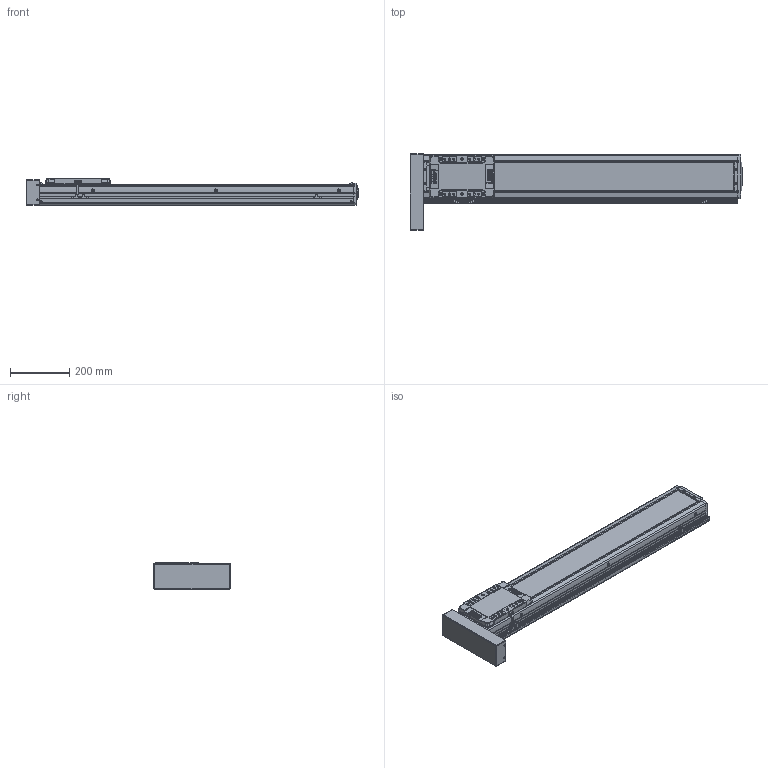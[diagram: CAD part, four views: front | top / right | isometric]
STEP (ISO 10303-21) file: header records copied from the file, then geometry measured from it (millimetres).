
FILE_DESCRIPTION(('STEP AP214'),'1');
FILE_NAME('Z:/Web/3D/SAN150/2013.04 (STP.)/SAN150ㅁㅁ-800PR+3SR.stp','2013-05-07T11:06:12',(' '),(' '),'Spatial InterOp 3D',' ',' ');
FILE_SCHEMA(('automotive_design'));
Length unit declared in the file: millimetre
Products named in the file (60): SLBL-SAN150; SLCV-SAN150; FHCS M4.0 x 8.0; BHCS M4.0 x 10.0; SFX-SAN150; RRCV-SAN150; FRBL-SAN150; Spacer; RN15; FRCV-SAN150; Screw 20; BASE-SAN150-000L ; SUS COVER; 스크루 : Round - M5.0 x 6.0; BHCS M3.0 x 6.0; P; M3.0 x 6.0; SRL-16x17-360L; SGD-SAN150; EE-SX674; SBK-SX674-352; 스크루 : Round - M3.0 x 6.0
Bounding box: 1120 x 260.73 x 90 mm (x, y, z)
Volume: 6977707.5 mm3; surface area: 1306573.5 mm2
Topology: 60 solids, 60 shells, 2738 faces, 7034 edges, 4511 vertices
Faces by surface type: plane 1420, cylinder 899, cone 302, sphere 84, bspline 21, torus 12
Entity records: 108436 total; most frequent: CARTESIAN_POINT 17329, DIRECTION 14904, ORIENTED_EDGE 13812, EDGE_CURVE 6906, AXIS2_PLACEMENT_3D 5321, VERTEX_POINT 4511, LINE 4262, VECTOR 4262
